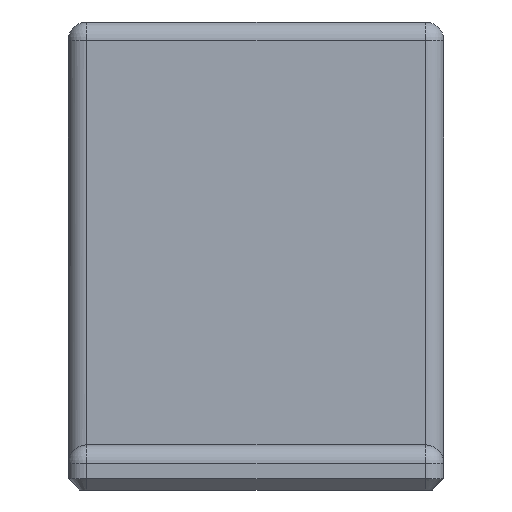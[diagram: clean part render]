
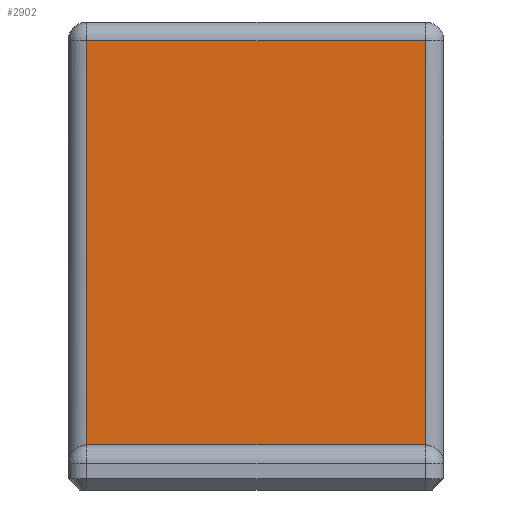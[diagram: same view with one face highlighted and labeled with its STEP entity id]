
A CAD part, left-side view. The second image highlights one B-rep face of the part: STEP entity #2902.
In plain terms, the highlighted planar face has unit normal (-1, 0, 0).
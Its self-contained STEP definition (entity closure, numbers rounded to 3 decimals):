
#1368 = CYLINDRICAL_SURFACE('',#1369,1.);
#1369 = AXIS2_PLACEMENT_3D('',#1370,#1371,#1372);
#1370 = CARTESIAN_POINT('',(-31.7,1.,23.9));
#1371 = DIRECTION('',(-0.,1.,0.));
#1372 = DIRECTION('',(-1.,-0.,0.));
#1518 = VERTEX_POINT('',#1519);
#1519 = CARTESIAN_POINT('',(-32.7,1.,23.9));
#1534 = CYLINDRICAL_SURFACE('',#1535,1.);
#1535 = AXIS2_PLACEMENT_3D('',#1536,#1537,#1538);
#1536 = CARTESIAN_POINT('',(-31.7,1.,2.4));
#1537 = DIRECTION('',(0.,0.,1.));
#1538 = DIRECTION('',(-1.,-0.,0.));
#1569 = EDGE_CURVE('',#1570,#1518,#1572,.T.);
#1570 = VERTEX_POINT('',#1571);
#1571 = CARTESIAN_POINT('',(-32.7,1.,2.4));
#1572 = SURFACE_CURVE('',#1573,(#1577,#1584),.PCURVE_S1.);
#1573 = LINE('',#1574,#1575);
#1574 = CARTESIAN_POINT('',(-32.7,1.,2.4));
#1575 = VECTOR('',#1576,1.);
#1576 = DIRECTION('',(0.,0.,1.));
#1577 = PCURVE('',#1534,#1578);
#1578 = DEFINITIONAL_REPRESENTATION('',(#1579),#1583);
#1579 = LINE('',#1580,#1581);
#1580 = CARTESIAN_POINT('',(0.,0.));
#1581 = VECTOR('',#1582,1.);
#1582 = DIRECTION('',(0.,1.));
#1583 = ( GEOMETRIC_REPRESENTATION_CONTEXT(2) 
PARAMETRIC_REPRESENTATION_CONTEXT() REPRESENTATION_CONTEXT('2D SPACE',''
  ) );
#1584 = PCURVE('',#1585,#1590);
#1585 = PLANE('',#1586);
#1586 = AXIS2_PLACEMENT_3D('',#1587,#1588,#1589);
#1587 = CARTESIAN_POINT('',(-32.7,0.,0.));
#1588 = DIRECTION('',(1.,0.,-0.));
#1589 = DIRECTION('',(0.,0.,1.));
#1590 = DEFINITIONAL_REPRESENTATION('',(#1591),#1595);
#1591 = LINE('',#1592,#1593);
#1592 = CARTESIAN_POINT('',(2.4,-1.));
#1593 = VECTOR('',#1594,1.);
#1594 = DIRECTION('',(1.,0.));
#1595 = ( GEOMETRIC_REPRESENTATION_CONTEXT(2) 
PARAMETRIC_REPRESENTATION_CONTEXT() REPRESENTATION_CONTEXT('2D SPACE',''
  ) );
#1677 = PLANE('',#1678);
#1678 = AXIS2_PLACEMENT_3D('',#1679,#1680,#1681);
#1679 = CARTESIAN_POINT('',(-38.7,0.,2.4));
#1680 = DIRECTION('',(0.,0.,1.));
#1681 = DIRECTION('',(1.,0.,-0.));
#2427 = VERTEX_POINT('',#2428);
#2428 = CARTESIAN_POINT('',(-32.7,19.,2.4));
#2448 = CYLINDRICAL_SURFACE('',#2449,1.);
#2449 = AXIS2_PLACEMENT_3D('',#2450,#2451,#2452);
#2450 = CARTESIAN_POINT('',(-31.7,19.,2.4));
#2451 = DIRECTION('',(0.,0.,1.));
#2452 = DIRECTION('',(-1.,-0.,0.));
#2489 = EDGE_CURVE('',#2427,#2490,#2492,.T.);
#2490 = VERTEX_POINT('',#2491);
#2491 = CARTESIAN_POINT('',(-32.7,19.,23.9));
#2492 = SURFACE_CURVE('',#2493,(#2497,#2504),.PCURVE_S1.);
#2493 = LINE('',#2494,#2495);
#2494 = CARTESIAN_POINT('',(-32.7,19.,2.4));
#2495 = VECTOR('',#2496,1.);
#2496 = DIRECTION('',(0.,0.,1.));
#2497 = PCURVE('',#2448,#2498);
#2498 = DEFINITIONAL_REPRESENTATION('',(#2499),#2503);
#2499 = LINE('',#2500,#2501);
#2500 = CARTESIAN_POINT('',(-0.,0.));
#2501 = VECTOR('',#2502,1.);
#2502 = DIRECTION('',(-0.,1.));
#2503 = ( GEOMETRIC_REPRESENTATION_CONTEXT(2) 
PARAMETRIC_REPRESENTATION_CONTEXT() REPRESENTATION_CONTEXT('2D SPACE',''
  ) );
#2504 = PCURVE('',#1585,#2505);
#2505 = DEFINITIONAL_REPRESENTATION('',(#2506),#2510);
#2506 = LINE('',#2507,#2508);
#2507 = CARTESIAN_POINT('',(2.4,-19.));
#2508 = VECTOR('',#2509,1.);
#2509 = DIRECTION('',(1.,0.));
#2510 = ( GEOMETRIC_REPRESENTATION_CONTEXT(2) 
PARAMETRIC_REPRESENTATION_CONTEXT() REPRESENTATION_CONTEXT('2D SPACE',''
  ) );
#2792 = EDGE_CURVE('',#1570,#2427,#2793,.T.);
#2793 = SURFACE_CURVE('',#2794,(#2798,#2804),.PCURVE_S1.);
#2794 = LINE('',#2795,#2796);
#2795 = CARTESIAN_POINT('',(-32.7,0.,2.4));
#2796 = VECTOR('',#2797,1.);
#2797 = DIRECTION('',(-0.,1.,0.));
#2798 = PCURVE('',#1677,#2799);
#2799 = DEFINITIONAL_REPRESENTATION('',(#2800),#2803);
#2800 = B_SPLINE_CURVE_WITH_KNOTS('',1,(#2801,#2802),.UNSPECIFIED.,.F.,
  .F.,(2,2),(0.,20.),.PIECEWISE_BEZIER_KNOTS.);
#2801 = CARTESIAN_POINT('',(6.,0.));
#2802 = CARTESIAN_POINT('',(6.,20.));
#2803 = ( GEOMETRIC_REPRESENTATION_CONTEXT(2) 
PARAMETRIC_REPRESENTATION_CONTEXT() REPRESENTATION_CONTEXT('2D SPACE',''
  ) );
#2804 = PCURVE('',#1585,#2805);
#2805 = DEFINITIONAL_REPRESENTATION('',(#2806),#2809);
#2806 = B_SPLINE_CURVE_WITH_KNOTS('',1,(#2807,#2808),.UNSPECIFIED.,.F.,
  .F.,(2,2),(0.,20.),.PIECEWISE_BEZIER_KNOTS.);
#2807 = CARTESIAN_POINT('',(2.4,0.));
#2808 = CARTESIAN_POINT('',(2.4,-20.));
#2809 = ( GEOMETRIC_REPRESENTATION_CONTEXT(2) 
PARAMETRIC_REPRESENTATION_CONTEXT() REPRESENTATION_CONTEXT('2D SPACE',''
  ) );
#2902 = ADVANCED_FACE('',(#2903),#1585,.F.);
#2903 = FACE_BOUND('',#2904,.F.);
#2904 = EDGE_LOOP('',(#2905,#2906,#2907,#2908));
#2905 = ORIENTED_EDGE('',*,*,#1569,.F.);
#2906 = ORIENTED_EDGE('',*,*,#2792,.T.);
#2907 = ORIENTED_EDGE('',*,*,#2489,.T.);
#2908 = ORIENTED_EDGE('',*,*,#2909,.F.);
#2909 = EDGE_CURVE('',#1518,#2490,#2910,.T.);
#2910 = SURFACE_CURVE('',#2911,(#2915,#2922),.PCURVE_S1.);
#2911 = LINE('',#2912,#2913);
#2912 = CARTESIAN_POINT('',(-32.7,1.,23.9));
#2913 = VECTOR('',#2914,1.);
#2914 = DIRECTION('',(-0.,1.,0.));
#2915 = PCURVE('',#1585,#2916);
#2916 = DEFINITIONAL_REPRESENTATION('',(#2917),#2921);
#2917 = LINE('',#2918,#2919);
#2918 = CARTESIAN_POINT('',(23.9,-1.));
#2919 = VECTOR('',#2920,1.);
#2920 = DIRECTION('',(0.,-1.));
#2921 = ( GEOMETRIC_REPRESENTATION_CONTEXT(2) 
PARAMETRIC_REPRESENTATION_CONTEXT() REPRESENTATION_CONTEXT('2D SPACE',''
  ) );
#2922 = PCURVE('',#1368,#2923);
#2923 = DEFINITIONAL_REPRESENTATION('',(#2924),#2928);
#2924 = LINE('',#2925,#2926);
#2925 = CARTESIAN_POINT('',(0.,0.));
#2926 = VECTOR('',#2927,1.);
#2927 = DIRECTION('',(0.,1.));
#2928 = ( GEOMETRIC_REPRESENTATION_CONTEXT(2) 
PARAMETRIC_REPRESENTATION_CONTEXT() REPRESENTATION_CONTEXT('2D SPACE',''
  ) );
